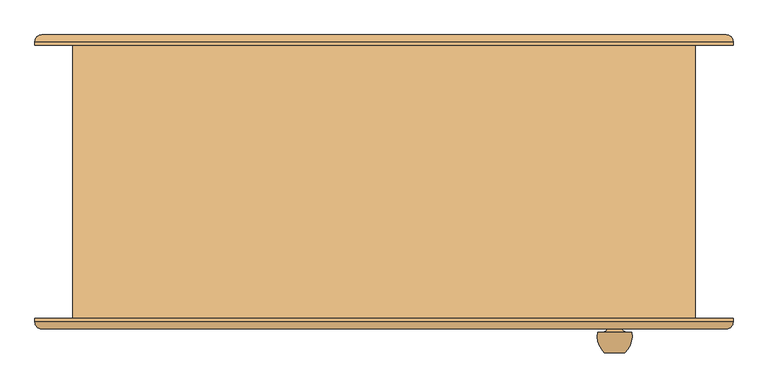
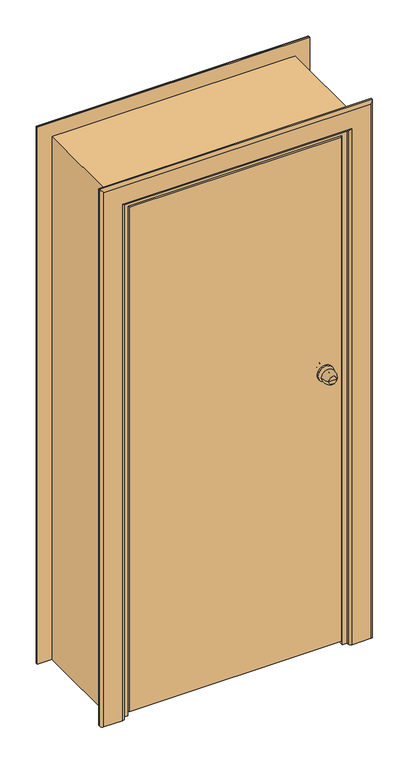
"""IFC4 building model written with IfcOpenShell, lengths in millimetres: door geometry, Внутренняя дверь 1-Навесная - 6629-88 : ДГ 21-9Л  ГОСТ 6629-88."""

from ifc_helpers import new_model, si_unit, point, frame, origin, place, context, project, spatial, polyline, circle_curve, ellipse_curve, trimmed, outline, extrude, faceted_brep, source, transform, mapped, element, save
from ifc_brep_helpers import plane_surface, cylinder_surface, revolved_surface, advanced_brep


def door_438def48(model_context):
    return source(origin(), model_context, "Body", "SolidModel", [
        advanced_brep(
        [(352.0, -250.0, 1100.0), (322.0, -250.0, 1100.0), (337.0, -250.0, 1100.0), (362.0, -220.0, 1100.0), (312.0, -220.0, 1100.0), (355.0, -220.0, 1100.0), (319.0, -220.0, 1100.0), (347.0, -212.0, 1100.0), (327.0, -212.0, 1100.0), (347.0, -206.0, 1100.0), (327.0, -206.0, 1100.0), (307.0, -206.0, 1100.0), (367.0, -206.0, 1100.0), (307.0, -200.0, 1100.0), (367.0, -200.0, 1100.0)],
        [
            (0, 1, circle_curve(frame((337.0, -250.0, 1100.0), z_axis=(0.0, -1.0, 0.0), x_axis=(-1.0, 0.0, 0.0)), 15.0)),
            (1, 2),
            (2, 0),
            (1, 0, circle_curve(frame((337.0, -250.0, 1100.0), z_axis=(0.0, -1.0, 0.0), x_axis=(-1.0, 0.0, 0.0)), 15.0)),
            (0, 3, circle_curve(frame((327.3773735, -225.1257912, 1100.0), z_axis=(0.0, 0.0, 1.0), x_axis=(-1.0, 0.0, 0.0)), 35.0)),
            (3, 4, circle_curve(frame((337.0, -220.0, 1100.0), z_axis=(0.0, -1.0, 0.0), x_axis=(-1.0, 0.0, 0.0)), 25.0)),
            (4, 1, circle_curve(frame((346.6226265, -225.1257912, 1100.0), z_axis=(0.0, 0.0, 1.0), x_axis=(1.0, 0.0, 0.0)), 35.0)),
            (4, 3, circle_curve(frame((337.0, -220.0, 1100.0), z_axis=(0.0, -1.0, 0.0), x_axis=(-1.0, 0.0, 0.0)), 25.0)),
            (3, 5),
            (5, 6, circle_curve(frame((337.0, -220.0, 1100.0), z_axis=(0.0, -1.0, 0.0), x_axis=(-1.0, 0.0, 0.0)), 18.0)),
            (6, 4),
            (6, 5, circle_curve(frame((337.0, -220.0, 1100.0), z_axis=(0.0, -1.0, 0.0), x_axis=(-1.0, 0.0, 0.0)), 18.0)),
            (5, 7, circle_curve(frame((355.0, -212.0, 1100.0), z_axis=(0.0, 0.0, -1.0), x_axis=(-1.0, 0.0, 0.0)), 8.0)),
            (7, 8, circle_curve(frame((337.0, -212.0, 1100.0), z_axis=(0.0, -1.0, 0.0), x_axis=(-1.0, 0.0, 0.0)), 10.0)),
            (8, 6, circle_curve(frame((319.0, -212.0, 1100.0), z_axis=(0.0, 0.0, -1.0), x_axis=(1.0, 0.0, 0.0)), 8.0)),
            (8, 7, circle_curve(frame((337.0, -212.0, 1100.0), z_axis=(0.0, -1.0, 0.0), x_axis=(-1.0, 0.0, 0.0)), 10.0)),
            (7, 9),
            (9, 10, circle_curve(frame((337.0, -206.0, 1100.0), z_axis=(0.0, -1.0, 0.0), x_axis=(-1.0, 0.0, 0.0)), 10.0)),
            (10, 8),
            (10, 9, circle_curve(frame((337.0, -206.0, 1100.0), z_axis=(0.0, -1.0, 0.0), x_axis=(-1.0, 0.0, 0.0)), 10.0)),
            (11, 12, circle_curve(frame((337.0, -206.0, 1100.0), z_axis=(0.0, -1.0, 0.0), x_axis=(1.0, 0.0, 0.0)), 30.0)),
            (12, 11, circle_curve(frame((337.0, -206.0, 1100.0), z_axis=(0.0, -1.0, 0.0), x_axis=(1.0, 0.0, 0.0)), 30.0)),
            (13, 14, circle_curve(frame((337.0, -200.0, 1100.0), z_axis=(0.0, 1.0, 0.0), x_axis=(1.0, 0.0, 0.0)), 30.0)),
            (14, 13, circle_curve(frame((337.0, -200.0, 1100.0), z_axis=(0.0, 1.0, 0.0), x_axis=(1.0, 0.0, 0.0)), 30.0)),
            (11, 13),
            (14, 12),
        ],
        [
            plane_surface(frame((337.0, -250.0, 1100.0), z_axis=(0.0, -1.0, 0.0), x_axis=(-1.0, 0.0, 0.0))),
            revolved_surface(trimmed(ellipse_curve(frame((346.6226265, -225.1257912, 1100.0), z_axis=(0.0, 0.0, -1.0), x_axis=(1.0, 0.0, 0.0)), 35.0, 35.0), [point((322.0, -250.0, 1100.0))], [point((312.0, -220.0, 1100.0))], True, "CARTESIAN"), (337.0, -280.0, 1100.0), (0.0, 1.0, 0.0)),
            plane_surface(frame((337.0, -220.0, 1100.0), z_axis=(0.0, 1.0, 0.0), x_axis=(-1.0, 0.0, 0.0))),
            revolved_surface(trimmed(ellipse_curve(frame((319.0, -212.0, 1100.0), z_axis=(0.0, 0.0, 1.0), x_axis=(1.0, 0.0, 0.0)), 8.0, 8.0), [point((319.0, -220.0, 1100.0))], [point((327.0, -212.0, 1100.0))], True, "CARTESIAN"), (337.0, -280.0, 1100.0), (0.0, 1.0, 0.0)),
            cylinder_surface(frame((337.0, -280.0, 1100.0), z_axis=(0.0, 1.0, 0.0), x_axis=(-1.0, 0.0, 0.0)), 10.0),
            plane_surface(frame((367.0, -206.0, 1100.0), z_axis=(0.0, -1.0, 0.0), x_axis=(0.0, 0.0, 1.0))),
            plane_surface(frame((367.0, -200.0, 1100.0), z_axis=(0.0, 1.0, 0.0), x_axis=(0.0, 0.0, -1.0))),
            cylinder_surface(frame((337.0, -200.0, 1100.0), z_axis=(0.0, -1.0, 0.0), x_axis=(1.0, 0.0, 0.0)), 30.0),
        ],
        [
            (0, [[1, 2, 3]]),
            (0, [[-2, 4, -3]]),
            (1, [[-1, 5, 6, 7]]),
            (1, [[-4, -7, 8, -5]]),
            (2, [[-6, 9, 10, 11]]),
            (2, [[-8, -11, 12, -9]]),
            (3, [[-10, 13, 14, 15]]),
            (3, [[-12, -15, 16, -13]]),
            (4, [[-14, 17, 18, 19]]),
            (4, [[-16, -19, 20, -17]]),
            (5, [[21, 22], [-18, -20]]),
            (6, [[23, 24]]),
            (7, [[-21, 25, -24, 26]]),
            (7, [[-22, -26, -23, -25]]),
        ],
    ),
        advanced_brep(
        [(322.0, -113.0, 1100.0), (352.0, -113.0, 1100.0), (337.0, -113.0, 1100.0), (312.0, -143.0, 1100.0), (362.0, -143.0, 1100.0), (319.0, -143.0, 1100.0), (355.0, -143.0, 1100.0), (327.0, -151.0, 1100.0), (347.0, -151.0, 1100.0), (327.0, -157.0, 1100.0), (347.0, -157.0, 1100.0), (367.0, -157.0, 1100.0), (307.0, -157.0, 1100.0), (367.0, -163.0, 1100.0), (307.0, -163.0, 1100.0)],
        [
            (0, 1, circle_curve(frame((337.0, -113.0, 1100.0), z_axis=(0.0, 1.0, 0.0), x_axis=(1.0, 0.0, 0.0)), 15.0)),
            (1, 2),
            (2, 0),
            (1, 0, circle_curve(frame((337.0, -113.0, 1100.0), z_axis=(0.0, 1.0, 0.0), x_axis=(1.0, 0.0, 0.0)), 15.0)),
            (0, 3, circle_curve(frame((346.6226265, -137.8742088, 1100.0), z_axis=(0.0, 0.0, 1.0), x_axis=(1.0, 0.0, 0.0)), 35.0)),
            (3, 4, circle_curve(frame((337.0, -143.0, 1100.0), z_axis=(0.0, 1.0, 0.0), x_axis=(1.0, 0.0, 0.0)), 25.0)),
            (4, 1, circle_curve(frame((327.3773735, -137.8742088, 1100.0), z_axis=(0.0, 0.0, 1.0), x_axis=(-1.0, 0.0, 0.0)), 35.0)),
            (4, 3, circle_curve(frame((337.0, -143.0, 1100.0), z_axis=(0.0, 1.0, 0.0), x_axis=(1.0, 0.0, 0.0)), 25.0)),
            (3, 5),
            (5, 6, circle_curve(frame((337.0, -143.0, 1100.0), z_axis=(0.0, 1.0, 0.0), x_axis=(1.0, 0.0, 0.0)), 18.0)),
            (6, 4),
            (6, 5, circle_curve(frame((337.0, -143.0, 1100.0), z_axis=(0.0, 1.0, 0.0), x_axis=(1.0, 0.0, 0.0)), 18.0)),
            (5, 7, circle_curve(frame((319.0, -151.0, 1100.0), z_axis=(0.0, 0.0, -1.0), x_axis=(1.0, 0.0, 0.0)), 8.0)),
            (7, 8, circle_curve(frame((337.0, -151.0, 1100.0), z_axis=(0.0, 1.0, 0.0), x_axis=(1.0, 0.0, 0.0)), 10.0)),
            (8, 6, circle_curve(frame((355.0, -151.0, 1100.0), z_axis=(0.0, 0.0, -1.0), x_axis=(-1.0, 0.0, 0.0)), 8.0)),
            (8, 7, circle_curve(frame((337.0, -151.0, 1100.0), z_axis=(0.0, 1.0, 0.0), x_axis=(1.0, 0.0, 0.0)), 10.0)),
            (7, 9),
            (9, 10, circle_curve(frame((337.0, -157.0, 1100.0), z_axis=(0.0, 1.0, 0.0), x_axis=(1.0, 0.0, 0.0)), 10.0)),
            (10, 8),
            (10, 9, circle_curve(frame((337.0, -157.0, 1100.0), z_axis=(0.0, 1.0, 0.0), x_axis=(1.0, 0.0, 0.0)), 10.0)),
            (11, 12, circle_curve(frame((337.0, -157.0, 1100.0), z_axis=(0.0, 1.0, 0.0), x_axis=(-1.0, 0.0, 0.0)), 30.0)),
            (12, 11, circle_curve(frame((337.0, -157.0, 1100.0), z_axis=(0.0, 1.0, 0.0), x_axis=(-1.0, 0.0, 0.0)), 30.0)),
            (13, 14, circle_curve(frame((337.0, -163.0, 1100.0), z_axis=(0.0, -1.0, 0.0), x_axis=(-1.0, 0.0, 0.0)), 30.0)),
            (14, 13, circle_curve(frame((337.0, -163.0, 1100.0), z_axis=(0.0, -1.0, 0.0), x_axis=(-1.0, 0.0, 0.0)), 30.0)),
            (11, 13),
            (14, 12),
        ],
        [
            plane_surface(frame((337.0, -113.0, 1100.0), z_axis=(0.0, 1.0, 0.0), x_axis=(1.0, 0.0, 0.0))),
            revolved_surface(trimmed(ellipse_curve(frame((327.3773735, -137.8742088, 1100.0), z_axis=(0.0, 0.0, -1.0), x_axis=(-1.0, 0.0, 0.0)), 35.0, 35.0), [point((352.0, -113.0, 1100.0))], [point((362.0, -143.0, 1100.0))], True, "CARTESIAN"), (337.0, -83.0, 1100.0), (0.0, -1.0, 0.0)),
            plane_surface(frame((337.0, -143.0, 1100.0), z_axis=(0.0, -1.0, 0.0), x_axis=(1.0, 0.0, 0.0))),
            revolved_surface(trimmed(ellipse_curve(frame((355.0, -151.0, 1100.0), z_axis=(0.0, 0.0, 1.0), x_axis=(-1.0, 0.0, 0.0)), 8.0, 8.0), [point((355.0, -143.0, 1100.0))], [point((347.0, -151.0, 1100.0))], True, "CARTESIAN"), (337.0, -83.0, 1100.0), (0.0, -1.0, 0.0)),
            cylinder_surface(frame((337.0, -83.0, 1100.0), z_axis=(0.0, -1.0, 0.0), x_axis=(1.0, 0.0, 0.0)), 10.0),
            plane_surface(frame((307.0, -157.0, 1100.0), z_axis=(0.0, 1.0, 0.0), x_axis=(0.0, 0.0, 1.0))),
            plane_surface(frame((307.0, -163.0, 1100.0), z_axis=(0.0, -1.0, 0.0), x_axis=(0.0, 0.0, -1.0))),
            cylinder_surface(frame((337.0, -163.0, 1100.0), z_axis=(0.0, 1.0, 0.0), x_axis=(-1.0, 0.0, 0.0)), 30.0),
        ],
        [
            (0, [[1, 2, 3]]),
            (0, [[-2, 4, -3]]),
            (1, [[-1, 5, 6, 7]]),
            (1, [[-4, -7, 8, -5]]),
            (2, [[-6, 9, 10, 11]]),
            (2, [[-8, -11, 12, -9]]),
            (3, [[-10, 13, 14, 15]]),
            (3, [[-12, -15, 16, -13]]),
            (4, [[-14, 17, 18, 19]]),
            (4, [[-16, -19, 20, -17]]),
            (5, [[21, 22], [-18, -20]]),
            (6, [[23, 24]]),
            (7, [[-21, 25, -24, 26]]),
            (7, [[-22, -26, -23, -25]]),
        ],
    ),
        extrude(outline(polyline([(0.0, 420.0), (0.0, 435.0), (2050.0, 435.0), (2050.0, -435.0), (0.0, -435.0), (0.0, -420.0), (2035.0, -420.0), (2035.0, 420.0), (0.0, 420.0)])), frame((0.0, -126.0, 0.0), z_axis=(0.0, 1.0, 0.0), x_axis=(0.0, 0.0, 1.0)), (0.0, 0.0, 1.0), 326.0),
        advanced_brep(
        [(-510.0, -200.0, 0.0), (-420.0, -200.0, 0.0), (-420.0, -205.0, 0.0), (-430.0, -215.0, 0.0), (-500.0, -215.0, 0.0), (-510.0, -205.0, 0.0), (-510.0, -200.0, 2125.0), (510.0, -200.0, 2125.0), (510.0, -200.0, 0.0), (420.0, -200.0, 0.0), (420.0, -200.0, 2035.0), (-420.0, -200.0, 2035.0), (-420.0, -205.0, 2035.0), (-430.0, -215.0, 2045.0), (430.0, -215.0, 2045.0), (430.0, -215.0, 0.0), (500.0, -215.0, 0.0), (500.0, -215.0, 2115.0), (-500.0, -215.0, 2115.0), (-510.0, -205.0, 2125.0), (510.0, -205.0, 2125.0), (510.0, -205.0, 0.0), (420.0, -205.0, 0.0), (420.0, -205.0, 2035.0)],
        [
            (0, 1),
            (1, 2),
            (2, 3, circle_curve(frame((-430.0, -205.0, 0.0), z_axis=(0.0, 0.0, -1.0), x_axis=(-1.0, 0.0, 0.0)), 10.0)),
            (3, 4),
            (4, 5, circle_curve(frame((-500.0, -205.0, 0.0), z_axis=(0.0, 0.0, -1.0), x_axis=(-1.0, 0.0, 0.0)), 10.0)),
            (5, 0),
            (0, 6),
            (6, 7),
            (7, 8),
            (8, 9),
            (9, 10),
            (10, 11),
            (11, 1),
            (11, 12),
            (12, 2),
            (12, 13, ellipse_curve(frame((-430.0, -205.0, 2045.0), z_axis=(-0.7071067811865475, 0.0, -0.7071067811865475), x_axis=(0.7071067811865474, 0.0, -0.7071067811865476)), 14.1421356, 10.0)),
            (13, 3),
            (13, 14),
            (14, 15),
            (15, 16),
            (16, 17),
            (17, 18),
            (18, 4),
            (18, 19, ellipse_curve(frame((-500.0, -205.0, 2115.0), z_axis=(-0.7071067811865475, 0.0, -0.7071067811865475), x_axis=(0.7071067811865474, 0.0, -0.7071067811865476)), 14.1421356, 10.0)),
            (19, 5),
            (19, 6),
            (7, 20),
            (20, 21),
            (21, 8),
            (21, 16, circle_curve(frame((500.0, -205.0, 0.0), z_axis=(0.0, 0.0, -1.0), x_axis=(1.0, 0.0, 0.0)), 10.0)),
            (15, 22, circle_curve(frame((430.0, -205.0, 0.0), z_axis=(0.0, 0.0, -1.0), x_axis=(1.0, 0.0, 0.0)), 10.0)),
            (22, 9),
            (23, 10),
            (22, 23),
            (14, 23, ellipse_curve(frame((430.0, -205.0, 2045.0), z_axis=(0.7071067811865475, 0.0, -0.7071067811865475), x_axis=(0.7071067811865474, 0.0, 0.7071067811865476)), 14.1421356, 10.0)),
            (20, 17, ellipse_curve(frame((500.0, -205.0, 2115.0), z_axis=(0.7071067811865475, 0.0, -0.7071067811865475), x_axis=(0.7071067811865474, 0.0, 0.7071067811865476)), 14.1421356, 10.0)),
            (23, 12),
            (20, 19),
        ],
        [
            plane_surface(frame((-455.0, -200.0, 0.0), z_axis=(0.0, 0.0, -1.0), x_axis=(0.0, 1.0, 0.0))),
            plane_surface(frame((-510.0, -200.0, 0.0), z_axis=(0.0, 1.0, 0.0), x_axis=(0.0, 0.0, 1.0))),
            plane_surface(frame((-420.0, -200.0, 0.0), z_axis=(1.0, 0.0, 0.0), x_axis=(0.0, 0.0, 1.0))),
            cylinder_surface(frame((-430.0, -205.0, 0.0), z_axis=(0.0, 0.0, -1.0), x_axis=(-1.0, 0.0, 0.0)), 10.0),
            plane_surface(frame((-430.0, -215.0, 0.0), z_axis=(0.0, -1.0, 0.0), x_axis=(0.0, 0.0, 1.0))),
            cylinder_surface(frame((-500.0, -205.0, 0.0), z_axis=(0.0, 0.0, -1.0), x_axis=(-1.0, 0.0, 0.0)), 10.0),
            plane_surface(frame((-510.0, -205.0, 0.0), z_axis=(-1.0, 0.0, 0.0), x_axis=(0.0, 0.0, 1.0))),
            plane_surface(frame((510.0, -205.0, 2125.0), z_axis=(1.0, 0.0, 0.0), x_axis=(0.0, 0.0, -1.0))),
            plane_surface(frame((455.0, -200.0, 0.0), z_axis=(0.0, 0.0, -1.0), x_axis=(0.0, 1.0, 0.0))),
            plane_surface(frame((420.0, -200.0, 2035.0), z_axis=(-1.0, 0.0, 0.0), x_axis=(0.0, 0.0, -1.0))),
            cylinder_surface(frame((430.0, -205.0, 2070.0), z_axis=(0.0, 0.0, 1.0), x_axis=(1.0, 0.0, 0.0)), 10.0),
            cylinder_surface(frame((500.0, -205.0, 2070.0), z_axis=(0.0, 0.0, 1.0), x_axis=(1.0, 0.0, 0.0)), 10.0),
            plane_surface(frame((-420.0, -200.0, 2035.0), z_axis=(0.0, 0.0, -1.0), x_axis=(1.0, 0.0, 0.0))),
            cylinder_surface(frame((-455.0, -205.0, 2045.0), z_axis=(-1.0, 0.0, 0.0), x_axis=(0.0, 0.0, 1.0)), 10.0),
            cylinder_surface(frame((-455.0, -205.0, 2115.0), z_axis=(-1.0, 0.0, 0.0), x_axis=(0.0, 0.0, 1.0)), 10.0),
            plane_surface(frame((-510.0, -205.0, 2125.0), z_axis=(0.0, 0.0, 1.0), x_axis=(1.0, 0.0, 0.0))),
        ],
        [
            (0, [[1, 2, 3, 4, 5, 6]]),
            (1, [[-1, 7, 8, 9, 10, 11, 12, 13]]),
            (2, [[-2, -13, 14, 15]]),
            (3, [[-3, -15, 16, 17]]),
            (4, [[-4, -17, 18, 19, 20, 21, 22, 23]]),
            (5, [[-5, -23, 24, 25]]),
            (6, [[-6, -25, 26, -7]]),
            (7, [[27, 28, 29, -9]]),
            (8, [[-29, 30, -20, 31, 32, -10]]),
            (9, [[33, -11, -32, 34]]),
            (10, [[35, -34, -31, -19]]),
            (11, [[36, -21, -30, -28]]),
            (12, [[-14, -12, -33, 37]]),
            (13, [[-16, -37, -35, -18]]),
            (14, [[-24, -22, -36, 38]]),
            (15, [[-26, -38, -27, -8]]),
        ],
    ),
        advanced_brep(
        [(510.0, 200.0, 0.0), (420.0, 200.0, 0.0), (420.0, 205.0, 0.0), (430.0, 215.0, 0.0), (500.0, 215.0, 0.0), (510.0, 205.0, 0.0), (510.0, 200.0, 2125.0), (-510.0, 200.0, 2125.0), (-510.0, 200.0, 0.0), (-420.0, 200.0, 0.0), (-420.0, 200.0, 2035.0), (420.0, 200.0, 2035.0), (420.0, 205.0, 2035.0), (430.0, 215.0, 2045.0), (-430.0, 215.0, 2045.0), (-430.0, 215.0, 0.0), (-500.0, 215.0, 0.0), (-500.0, 215.0, 2115.0), (500.0, 215.0, 2115.0), (510.0, 205.0, 2125.0), (-510.0, 205.0, 2125.0), (-510.0, 205.0, 0.0), (-420.0, 205.0, 0.0), (-420.0, 205.0, 2035.0)],
        [
            (0, 1),
            (1, 2),
            (2, 3, circle_curve(frame((430.0, 205.0, 0.0), z_axis=(0.0, 0.0, -1.0), x_axis=(1.0, 0.0, 0.0)), 10.0)),
            (3, 4),
            (4, 5, circle_curve(frame((500.0, 205.0, 0.0), z_axis=(0.0, 0.0, -1.0), x_axis=(1.0, 0.0, 0.0)), 10.0)),
            (5, 0),
            (0, 6),
            (6, 7),
            (7, 8),
            (8, 9),
            (9, 10),
            (10, 11),
            (11, 1),
            (11, 12),
            (12, 2),
            (12, 13, ellipse_curve(frame((430.0, 205.0, 2045.0), z_axis=(0.7071067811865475, 0.0, -0.7071067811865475), x_axis=(-0.7071067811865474, 0.0, -0.7071067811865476)), 14.1421356, 10.0)),
            (13, 3),
            (13, 14),
            (14, 15),
            (15, 16),
            (16, 17),
            (17, 18),
            (18, 4),
            (18, 19, ellipse_curve(frame((500.0, 205.0, 2115.0), z_axis=(0.7071067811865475, 0.0, -0.7071067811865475), x_axis=(-0.7071067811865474, 0.0, -0.7071067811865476)), 14.1421356, 10.0)),
            (19, 5),
            (19, 6),
            (7, 20),
            (20, 21),
            (21, 8),
            (21, 16, circle_curve(frame((-500.0, 205.0, 0.0), z_axis=(0.0, 0.0, -1.0), x_axis=(-1.0, 0.0, 0.0)), 10.0)),
            (15, 22, circle_curve(frame((-430.0, 205.0, 0.0), z_axis=(0.0, 0.0, -1.0), x_axis=(-1.0, 0.0, 0.0)), 10.0)),
            (22, 9),
            (23, 10),
            (22, 23),
            (14, 23, ellipse_curve(frame((-430.0, 205.0, 2045.0), z_axis=(-0.7071067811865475, 0.0, -0.7071067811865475), x_axis=(-0.7071067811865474, 0.0, 0.7071067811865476)), 14.1421356, 10.0)),
            (20, 17, ellipse_curve(frame((-500.0, 205.0, 2115.0), z_axis=(-0.7071067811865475, 0.0, -0.7071067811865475), x_axis=(-0.7071067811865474, 0.0, 0.7071067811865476)), 14.1421356, 10.0)),
            (23, 12),
            (20, 19),
        ],
        [
            plane_surface(frame((455.0, 200.0, 0.0), z_axis=(0.0, 0.0, -1.0), x_axis=(0.0, -1.0, 0.0))),
            plane_surface(frame((510.0, 200.0, 0.0), z_axis=(0.0, -1.0, 0.0), x_axis=(0.0, 0.0, 1.0))),
            plane_surface(frame((420.0, 200.0, 0.0), z_axis=(-1.0, 0.0, 0.0), x_axis=(0.0, 0.0, 1.0))),
            cylinder_surface(frame((430.0, 205.0, 0.0), z_axis=(0.0, 0.0, -1.0), x_axis=(1.0, 0.0, 0.0)), 10.0),
            plane_surface(frame((430.0, 215.0, 0.0), z_axis=(0.0, 1.0, 0.0), x_axis=(0.0, 0.0, 1.0))),
            cylinder_surface(frame((500.0, 205.0, 0.0), z_axis=(0.0, 0.0, -1.0), x_axis=(1.0, 0.0, 0.0)), 10.0),
            plane_surface(frame((510.0, 205.0, 0.0), z_axis=(1.0, 0.0, 0.0), x_axis=(0.0, 0.0, 1.0))),
            plane_surface(frame((-510.0, 205.0, 2125.0), z_axis=(-1.0, 0.0, 0.0), x_axis=(0.0, 0.0, -1.0))),
            plane_surface(frame((-455.0, 200.0, 0.0), z_axis=(0.0, 0.0, -1.0), x_axis=(0.0, -1.0, 0.0))),
            plane_surface(frame((-420.0, 200.0, 2035.0), z_axis=(1.0, 0.0, 0.0), x_axis=(0.0, 0.0, -1.0))),
            cylinder_surface(frame((-430.0, 205.0, 2070.0), z_axis=(0.0, 0.0, 1.0), x_axis=(-1.0, 0.0, 0.0)), 10.0),
            cylinder_surface(frame((-500.0, 205.0, 2070.0), z_axis=(0.0, 0.0, 1.0), x_axis=(-1.0, 0.0, 0.0)), 10.0),
            plane_surface(frame((420.0, 200.0, 2035.0), z_axis=(0.0, 0.0, -1.0), x_axis=(-1.0, 0.0, 0.0))),
            cylinder_surface(frame((455.0, 205.0, 2045.0), z_axis=(1.0, 0.0, 0.0), x_axis=(0.0, 0.0, 1.0)), 10.0),
            cylinder_surface(frame((455.0, 205.0, 2115.0), z_axis=(1.0, 0.0, 0.0), x_axis=(0.0, 0.0, 1.0)), 10.0),
            plane_surface(frame((510.0, 205.0, 2125.0), z_axis=(0.0, 0.0, 1.0), x_axis=(-1.0, 0.0, 0.0))),
        ],
        [
            (0, [[1, 2, 3, 4, 5, 6]]),
            (1, [[-1, 7, 8, 9, 10, 11, 12, 13]]),
            (2, [[-2, -13, 14, 15]]),
            (3, [[-3, -15, 16, 17]]),
            (4, [[-4, -17, 18, 19, 20, 21, 22, 23]]),
            (5, [[-5, -23, 24, 25]]),
            (6, [[-6, -25, 26, -7]]),
            (7, [[27, 28, 29, -9]]),
            (8, [[-29, 30, -20, 31, 32, -10]]),
            (9, [[33, -11, -32, 34]]),
            (10, [[35, -34, -31, -19]]),
            (11, [[36, -21, -30, -28]]),
            (12, [[-14, -12, -33, 37]]),
            (13, [[-16, -37, -35, -18]]),
            (14, [[-24, -22, -36, 38]]),
            (15, [[-26, -38, -27, -8]]),
        ],
    ),
        faceted_brep([(390.0, -126.0, 0.0), (435.0, -126.0, 0.0), (435.0, -200.0, 0.0), (402.0, -200.0, 0.0), (402.0, -158.0, 0.0), (390.0, -158.0, 0.0), (390.0, -126.0, 2005.0), (-390.0, -126.0, 2005.0), (-390.0, -126.0, 0.0), (-435.0, -126.0, 0.0), (-435.0, -126.0, 2050.0), (435.0, -126.0, 2050.0), (435.0, -200.0, 2050.0), (-435.0, -200.0, 2050.0), (-435.0, -200.0, 0.0), (-402.0, -200.0, 0.0), (-402.0, -200.0, 2017.0), (402.0, -200.0, 2017.0), (402.0, -158.0, 2017.0), (-402.0, -158.0, 2017.0), (-402.0, -158.0, 0.0), (-390.0, -158.0, 0.0), (-390.0, -158.0, 2005.0), (390.0, -158.0, 2005.0)], [[[0, 1, 2, 3, 4, 5]], [[1, 0, 6, 7, 8, 9, 10, 11]], [[2, 1, 11, 12]], [[3, 2, 12, 13, 14, 15, 16, 17]], [[4, 3, 17, 18]], [[5, 4, 18, 19, 20, 21, 22, 23]], [[0, 5, 23, 6]], [[7, 22, 21, 8]], [[8, 21, 20, 15, 14, 9]], [[13, 10, 9, 14]], [[19, 16, 15, 20]], [[12, 11, 10, 13]], [[18, 17, 16, 19]], [[6, 23, 22, 7]]]),
        extrude(outline(polyline([(0.0, 435.0), (0.0, 455.0), (2070.0, 455.0), (2070.0, -455.0), (0.0, -455.0), (0.0, -435.0), (2050.0, -435.0), (2050.0, 435.0), (0.0, 435.0)])), frame((0.0, -200.0, 0.0), z_axis=(0.0, 1.0, 0.0), x_axis=(0.0, 0.0, 1.0)), (0.0, 0.0, 1.0), 400.0),
        extrude(outline(polyline([(397.0, -163.0), (397.0, -200.0), (-397.0, -200.0), (-397.0, -163.0), (397.0, -163.0)])), frame((0.0, 0.0, 15.0), z_axis=(0.0, 0.0, 1.0), x_axis=(1.0, 0.0, 0.0)), (0.0, 0.0, 1.0), 1997.0),
    ])


if __name__ == "__main__":
    model = new_model("IFC4")
    model_context = context("Model", 3, world=origin())
    ifc_project = project(units=[si_unit("LENGTHUNIT", "METRE", prefix="MILLI")], contexts=[model_context])
    site = spatial("IfcSite", under=ifc_project)
    building = spatial("IfcBuilding", under=site)
    placement = place(None, origin())
    door_shape = door_438def48(model_context)
    element("IfcDoor", 1, ObjectType="Внутренняя дверь 1-Навесная - 6629-88 : ДГ 21-9Л  ГОСТ 6629-88", at=placement, inside=building, context=model_context, shape_type="MappedRepresentation", body=[
        mapped(door_shape, transform((0.0, 0.0, 0.0), x_axis=(1.0, 0.0, 0.0), y_axis=(0.0, 1.0, 0.0), z_axis=(0.0, 0.0, 1.0))),
    ])
    save(model, "model.ifc")
